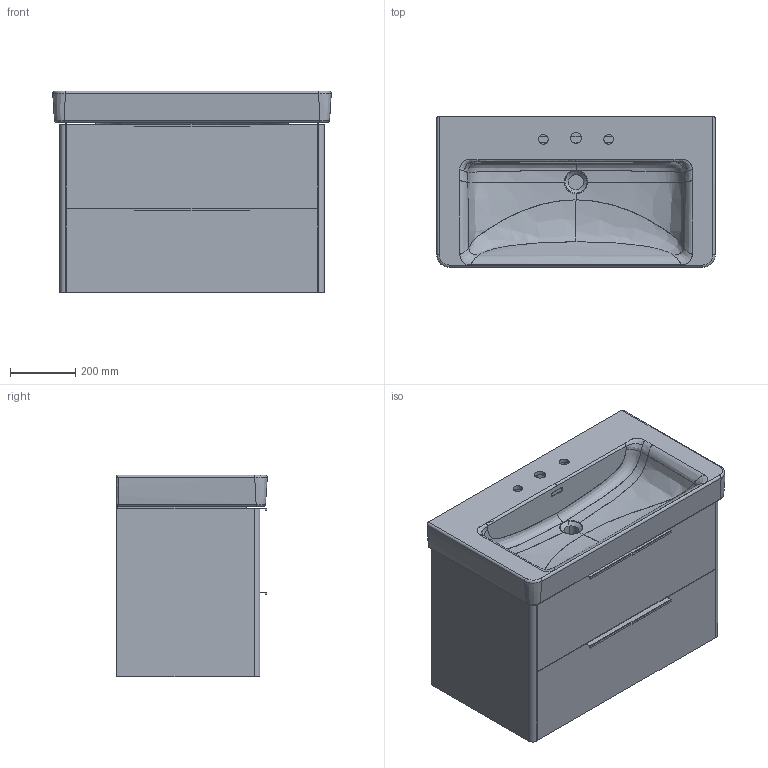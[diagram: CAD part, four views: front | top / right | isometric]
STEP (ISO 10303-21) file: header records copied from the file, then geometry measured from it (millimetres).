
FILE_DESCRIPTION(/* description */ (''),/* implementation_level */ '2;1');
FILE_NAME(/* name */ 'C:\Users\User33\Desktop\Base\3D01_402392.stp',/* time_stamp */ '2018-05-05T14:47:52+02:00',/* author */ ('User33'),/* organization */ (''),/* preprocessor_version */ 'ST-DEVELOPER v16.13',/* originating_system */ 'Autodesk Inventor 2018',/* authorisation */ '');
FILE_SCHEMA (('AUTOMOTIVE_DESIGN { 1 0 10303 214 3 1 1 }'));
Products named in the file (24): Scheletro monoblocco curvo 809; Catena_superiore; Frontale cassetto superiore; Catena inferiore; Fianco sx; Fianco dx; Fondo mobile; Fondo cassetto superiore; Fondo cassetto inferiore; Retro cassetto superiore; Fascia rialzo; Retro_cassetto inferiore; Frontale cassetto inferiore; Maniglia superiore; maniglia inferiore; 350-84; 350-84_1; 350-84_2; 350-84_3; HY13965......1_A.01; 350-84_MIR4; 350-84_1_MIR4; 350-84_2_MIR4; 350-84_3_MIR4
Assembly tree (25 placements, depth 3):
  Scheletro monoblocco curvo 809
    Catena_superiore
    Frontale cassetto superiore
    Catena inferiore
    Fianco sx
    Fianco dx
    Fondo mobile
    Fondo cassetto superiore
    Fondo cassetto inferiore
    Retro cassetto superiore
    Fascia rialzo
    Retro_cassetto inferiore
    Frontale cassetto inferiore
    Maniglia superiore
    maniglia inferiore
    350-84  x2
      350-84_1
      350-84_2
      350-84_3
    HY13965......1_A.01
    350-84_MIR4  x2
      350-84_1_MIR4
      350-84_2_MIR4
      350-84_3_MIR4
Bounding box: 850.77 x 460.42 x 617 mm (x, y, z)
Volume: 34086102.8 mm3; surface area: 6269240.9 mm2
Topology: 28 solids, 521 shells, 1456 faces, 4940 edges, 4072 vertices
Faces by surface type: plane 835, cylinder 333, bspline 206, torus 49, sphere 22, cone 11
Full cylindrical faces by diameter (mm): 4 x16, 4.1 x4, 5 x8, 5.1 x4, 6 x12, 6.3 x48
Entity records: 101732 total; most frequent: CARTESIAN_POINT 69381, DIRECTION 5962, ORIENTED_EDGE 5098, EDGE_CURVE 3705, VERTEX_POINT 3274, AXIS2_PLACEMENT_3D 2081, LINE 1800, VECTOR 1800
